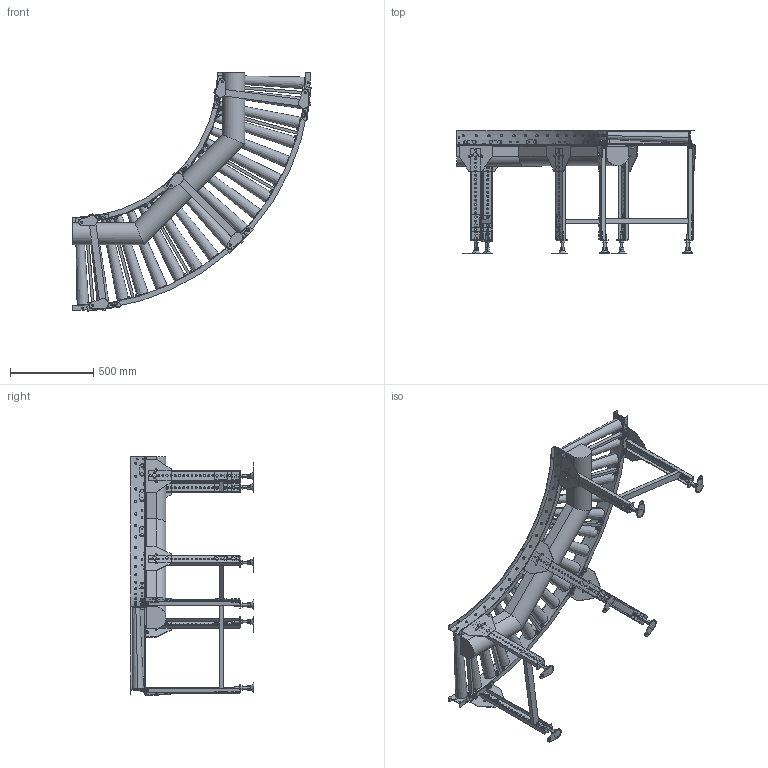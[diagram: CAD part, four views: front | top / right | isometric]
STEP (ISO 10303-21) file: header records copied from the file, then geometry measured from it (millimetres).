
FILE_DESCRIPTION (( 'STEP AP214' ), '1' );
FILE_NAME ('MCD50C9-90-500-100.STEP', '2022-08-01T07:46:14', ( '' ), ( '' ), 'SwSTEP 2.0', 'SolidWorks 2017', '' );
FILE_SCHEMA (( 'AUTOMOTIVE_DESIGN' ));
Length unit declared in the file: millimetre
Products named in the file (1): MCD50C9-90-500-100
Bounding box: 1432.18 x 740 x 1432.18 mm (x, y, z)
Volume: 52744898.3 mm3; surface area: 5274248.5 mm2
Topology: 28 solids, 58 shells, 3790 faces, 9128 edges, 5760 vertices
Faces by surface type: plane 2715, cylinder 1027, cone 48
Entity records: 161503 total; most frequent: CARTESIAN_POINT 29135, DIRECTION 19110, ORIENTED_EDGE 18256, EDGE_CURVE 9128, AXIS2_PLACEMENT_3D 6641, LINE 5828, VECTOR 5828, VERTEX_POINT 5760
